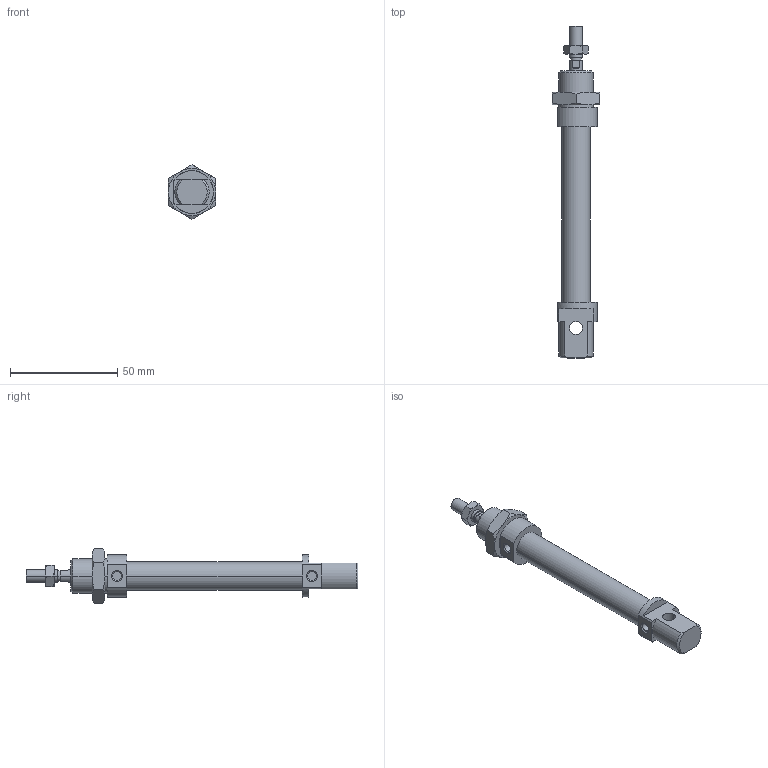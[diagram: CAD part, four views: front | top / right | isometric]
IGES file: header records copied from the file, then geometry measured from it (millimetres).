
Global section: file name: No Iges File Name specified; native system: Autodesk Inventor 2010; preprocessor: AutoDesk Inventor Iges Exporter R2010; author: rivolro1; date: 20090604.093139; units: millimetre
Bounding box: 22 x 155 x 25.4 mm (x, y, z)
Volume: 24273.7 mm3; surface area: 12163.7 mm2
Topology: 4 solids, 4 shells, 107 faces, 236 edges, 144 vertices
Faces by surface type: plane 39, cone 28, bspline 20, cylinder 14, revolution 6
